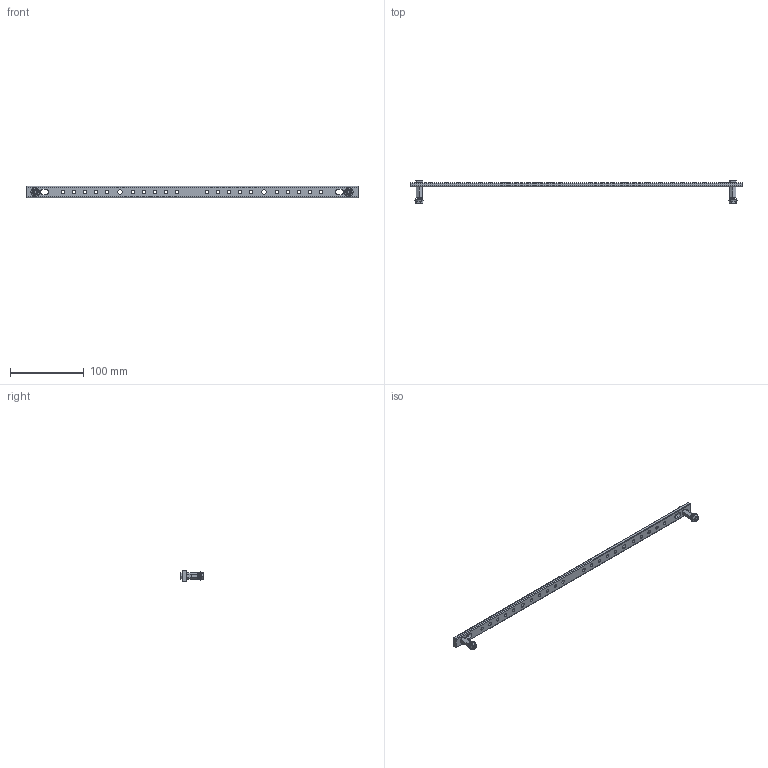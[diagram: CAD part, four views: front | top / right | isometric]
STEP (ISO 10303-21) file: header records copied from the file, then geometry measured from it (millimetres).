
FILE_DESCRIPTION (( 'STEP AP214' ), '1' );
FILE_NAME ('BI 1.45 E 捘.STEP', '2023-07-13T16:44:42', ( '' ), ( '' ), 'SwSTEP 2.0', 'SolidWorks 2022', '' );
FILE_SCHEMA (( 'AUTOMOTIVE_DESIGN' ));
Length unit declared in the file: millimetre
Products named in the file (6): Проставка оц. спец. ПР M5x8x15; Гайка оц. с фланцем, рифленая М5 DIN 6923_Hexagon Flange Nut DIN 6923 - M5 - C; Шина заземления BI 1 5х15х450_Шина заземления BI 1 5х15х450; Шайба оц. контактная с зубцами М8_М5; Болт оц. М6x16 DIN 933_Болт оц. М5x12 DIN 933; BI 1.45 E СБ
Assembly tree (9 placements, depth 2):
  BI 1.45 E СБ
    Шина заземления BI 1 5х15х450_Шина заземления BI 1 5х15х450
    Проставка оц. спец. ПР M5x8x15  x2
    Болт оц. М6x16 DIN 933_Болт оц. М5x12 DIN 933  x2
    Гайка оц. с фланцем, рифленая М5 DIN 6923_Hexagon Flange Nut DIN 6923 - M5 - C  x2
    Шайба оц. контактная с зубцами М8_М5  x2
Bounding box: 450 x 31.7 x 15 mm (x, y, z)
Volume: 33734.4 mm3; surface area: 21670.7 mm2
Topology: 9 solids, 9 shells, 332 faces, 788 edges, 472 vertices
Faces by surface type: plane 122, cylinder 102, cone 80, torus 16, bspline 12
Entity records: 6605 total; most frequent: CARTESIAN_POINT 1427, DIRECTION 1059, ORIENTED_EDGE 976, EDGE_CURVE 488, AXIS2_PLACEMENT_3D 434, VERTEX_POINT 300, EDGE_LOOP 256, CIRCLE 229
